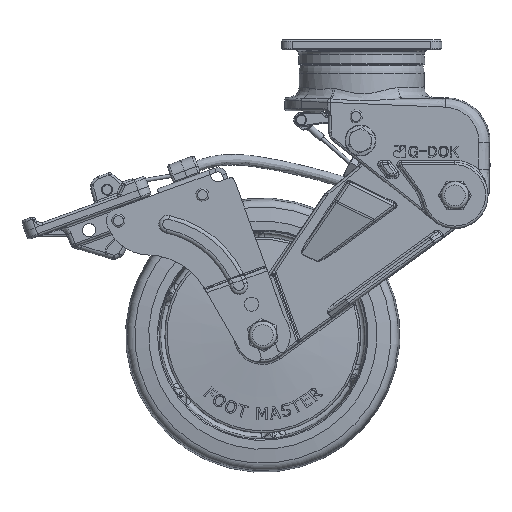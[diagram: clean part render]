
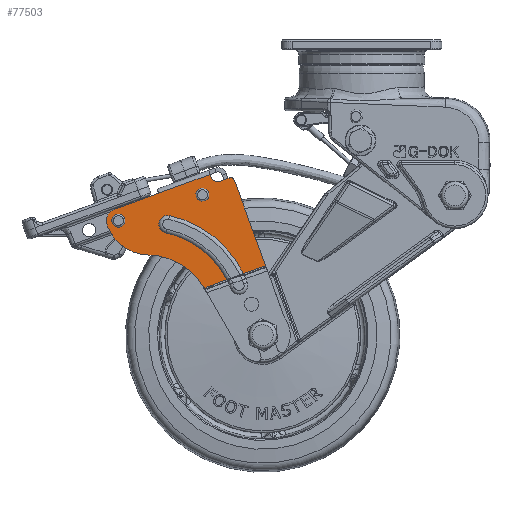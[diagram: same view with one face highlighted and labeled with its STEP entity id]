
A CAD part, front view. The second image highlights one B-rep face of the part: STEP entity #77503.
In plain terms, the highlighted planar face has unit normal (0, -1, 0).
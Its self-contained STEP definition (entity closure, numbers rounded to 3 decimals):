
#4821=FACE_BOUND('',#15474,.T.);
#4822=FACE_BOUND('',#15475,.T.);
#6271=PLANE('',#84704);
#10836=FACE_OUTER_BOUND('',#15473,.T.);
#15473=EDGE_LOOP('',(#66695,#66696,#66697,#66698,#66699,#66700,#66701,#66702,
#66703,#66704,#66705,#66706,#66707,#66708,#66709,#66710,#66711,#66712));
#15474=EDGE_LOOP('',(#66713));
#15475=EDGE_LOOP('',(#66714));
#16538=LINE('',#122573,#21161);
#16543=LINE('',#122587,#21166);
#16547=LINE('',#122599,#21170);
#16571=LINE('',#122682,#21194);
#16591=LINE('',#122737,#21214);
#16595=LINE('',#122744,#21218);
#16607=LINE('',#122823,#21230);
#16608=LINE('',#122834,#21231);
#16721=LINE('',#125278,#21344);
#21161=VECTOR('',#88433,10.);
#21166=VECTOR('',#88446,10.);
#21170=VECTOR('',#88458,10.);
#21194=VECTOR('',#88526,10.);
#21214=VECTOR('',#88576,10.);
#21218=VECTOR('',#88582,10.);
#21230=VECTOR('',#88642,10.);
#21231=VECTOR('',#88651,10.);
#21344=VECTOR('',#89414,10.);
#25564=CIRCLE('',#78989,30.);
#25576=CIRCLE('',#79008,2.);
#25578=CIRCLE('',#79012,3.);
#25580=CIRCLE('',#79016,5.5);
#25582=CIRCLE('',#79020,20.);
#25678=CIRCLE('',#79182,49.);
#25683=CIRCLE('',#79188,41.);
#25685=CIRCLE('',#79191,4.);
#25805=CIRCLE('',#79416,49.);
#28130=CIRCLE('',#84698,2.25);
#28133=CIRCLE('',#84705,2.25);
#29586=VERTEX_POINT('',#122507);
#29587=VERTEX_POINT('',#122509);
#29608=VERTEX_POINT('',#122563);
#29609=VERTEX_POINT('',#122565);
#29611=VERTEX_POINT('',#122571);
#29613=VERTEX_POINT('',#122577);
#29614=VERTEX_POINT('',#122581);
#29616=VERTEX_POINT('',#122585);
#29618=VERTEX_POINT('',#122591);
#29620=VERTEX_POINT('',#122597);
#29651=VERTEX_POINT('',#122678);
#29671=VERTEX_POINT('',#122735);
#29672=VERTEX_POINT('',#122740);
#29698=VERTEX_POINT('',#122821);
#29699=VERTEX_POINT('',#122826);
#29762=VERTEX_POINT('',#123878);
#29763=VERTEX_POINT('',#123880);
#29766=VERTEX_POINT('',#123888);
#34659=VERTEX_POINT('',#170293);
#34661=VERTEX_POINT('',#170303);
#37023=EDGE_CURVE('',#29587,#29586,#25564,.T.);
#37050=EDGE_CURVE('',#29609,#29608,#25576,.T.);
#37054=EDGE_CURVE('',#29608,#29611,#16538,.T.);
#37057=EDGE_CURVE('',#29611,#29613,#25578,.T.);
#37061=EDGE_CURVE('',#29614,#29616,#16543,.T.);
#37064=EDGE_CURVE('',#29616,#29618,#25580,.T.);
#37067=EDGE_CURVE('',#29618,#29620,#16547,.T.);
#37069=EDGE_CURVE('',#29620,#29587,#25582,.T.);
#37106=EDGE_CURVE('',#29614,#29651,#16571,.T.);
#37134=EDGE_CURVE('',#29586,#29671,#16591,.T.);
#37138=EDGE_CURVE('',#29672,#29609,#16595,.T.);
#37170=EDGE_CURVE('',#29698,#29671,#16607,.T.);
#37175=EDGE_CURVE('',#29672,#29699,#16608,.T.);
#37289=EDGE_CURVE('',#29763,#29762,#25678,.T.);
#37294=EDGE_CURVE('',#29698,#29766,#25683,.T.);
#37296=EDGE_CURVE('',#29766,#29763,#25685,.T.);
#37568=EDGE_CURVE('',#29613,#29651,#16721,.T.);
#37574=EDGE_CURVE('',#29762,#29699,#25805,.T.);
#45419=EDGE_CURVE('',#34659,#34659,#28130,.T.);
#45422=EDGE_CURVE('',#34661,#34661,#28133,.T.);
#66695=ORIENTED_EDGE('',*,*,#37294,.T.);
#66696=ORIENTED_EDGE('',*,*,#37296,.T.);
#66697=ORIENTED_EDGE('',*,*,#37289,.T.);
#66698=ORIENTED_EDGE('',*,*,#37574,.T.);
#66699=ORIENTED_EDGE('',*,*,#37175,.F.);
#66700=ORIENTED_EDGE('',*,*,#37138,.T.);
#66701=ORIENTED_EDGE('',*,*,#37050,.T.);
#66702=ORIENTED_EDGE('',*,*,#37054,.T.);
#66703=ORIENTED_EDGE('',*,*,#37057,.T.);
#66704=ORIENTED_EDGE('',*,*,#37568,.T.);
#66705=ORIENTED_EDGE('',*,*,#37106,.F.);
#66706=ORIENTED_EDGE('',*,*,#37061,.T.);
#66707=ORIENTED_EDGE('',*,*,#37064,.T.);
#66708=ORIENTED_EDGE('',*,*,#37067,.T.);
#66709=ORIENTED_EDGE('',*,*,#37069,.T.);
#66710=ORIENTED_EDGE('',*,*,#37023,.T.);
#66711=ORIENTED_EDGE('',*,*,#37134,.T.);
#66712=ORIENTED_EDGE('',*,*,#37170,.F.);
#66713=ORIENTED_EDGE('',*,*,#45419,.F.);
#66714=ORIENTED_EDGE('',*,*,#45422,.F.);
#77503=ADVANCED_FACE('',(#10836,#4821,#4822),#6271,.F.);
#78989=AXIS2_PLACEMENT_3D('',#122510,#88373,#88374);
#79008=AXIS2_PLACEMENT_3D('',#122566,#88426,#88427);
#79012=AXIS2_PLACEMENT_3D('',#122579,#88439,#88440);
#79016=AXIS2_PLACEMENT_3D('',#122593,#88452,#88453);
#79020=AXIS2_PLACEMENT_3D('',#122602,#88463,#88464);
#79182=AXIS2_PLACEMENT_3D('',#123881,#88859,#88860);
#79188=AXIS2_PLACEMENT_3D('',#123890,#88871,#88872);
#79191=AXIS2_PLACEMENT_3D('',#123893,#88877,#88878);
#79416=AXIS2_PLACEMENT_3D('',#125389,#89431,#89432);
#84698=AXIS2_PLACEMENT_3D('',#170295,#103413,#103414);
#84704=AXIS2_PLACEMENT_3D('',#170302,#103425,#103426);
#84705=AXIS2_PLACEMENT_3D('',#170304,#103427,#103428);
#88373=DIRECTION('center_axis',(0.,1.,0.));
#88374=DIRECTION('ref_axis',(-0.866,0.,-0.5));
#88426=DIRECTION('center_axis',(0.,-1.,0.));
#88427=DIRECTION('ref_axis',(0.94,0.,0.342));
#88433=DIRECTION('',(-0.94,0.,-0.342));
#88439=DIRECTION('center_axis',(0.,1.,0.));
#88440=DIRECTION('ref_axis',(0.94,0.,0.342));
#88446=DIRECTION('',(-0.94,0.,-0.342));
#88452=DIRECTION('center_axis',(0.,-1.,0.));
#88453=DIRECTION('ref_axis',(-0.342,0.,0.94));
#88458=DIRECTION('',(0.342,0.,-0.94));
#88463=DIRECTION('center_axis',(0.,-1.,0.));
#88464=DIRECTION('ref_axis',(-0.94,0.,-0.342));
#88526=DIRECTION('',(0.94,0.,0.342));
#88576=DIRECTION('',(0.5,0.,-0.866));
#88582=DIRECTION('',(-0.342,0.,0.94));
#88642=DIRECTION('',(-0.94,0.,-0.342));
#88651=DIRECTION('',(-0.94,0.,-0.342));
#88859=DIRECTION('center_axis',(0.,1.,0.));
#88860=DIRECTION('ref_axis',(0.934,0.,0.356));
#88871=DIRECTION('center_axis',(0.,-1.,0.));
#88872=DIRECTION('ref_axis',(-0.934,0.,-0.356));
#88877=DIRECTION('center_axis',(0.,1.,0.));
#88878=DIRECTION('ref_axis',(0.211,0.,0.977));
#89414=DIRECTION('',(-0.342,0.,0.94));
#89431=DIRECTION('center_axis',(0.,1.,0.));
#89432=DIRECTION('ref_axis',(0.934,0.,0.356));
#103413=DIRECTION('center_axis',(0.,-1.,0.));
#103414=DIRECTION('ref_axis',(0.,0.,-1.));
#103425=DIRECTION('center_axis',(0.,1.,0.));
#103426=DIRECTION('ref_axis',(0.94,0.,0.342));
#103427=DIRECTION('center_axis',(0.,-1.,0.));
#103428=DIRECTION('ref_axis',(0.,0.,-1.));
#122507=CARTESIAN_POINT('',(-71.876,-25.8,-112.905));
#122509=CARTESIAN_POINT('',(-97.327,-25.8,-97.91));
#122510=CARTESIAN_POINT('Origin',(-97.857,-25.8,-127.905));
#122563=CARTESIAN_POINT('',(-60.399,-25.8,-62.908));
#122565=CARTESIAN_POINT('',(-57.836,-25.8,-64.104));
#122566=CARTESIAN_POINT('Origin',(-59.715,-25.8,-64.788));
#122571=CARTESIAN_POINT('',(-64.628,-25.8,-64.447));
#122573=CARTESIAN_POINT('',(-60.399,-25.8,-62.908));
#122577=CARTESIAN_POINT('',(-68.473,-25.8,-62.654));
#122579=CARTESIAN_POINT('Origin',(-65.654,-25.8,-61.628));
#122581=CARTESIAN_POINT('',(-92.479,-25.8,-69.795));
#122585=CARTESIAN_POINT('',(-112.682,-25.8,-77.149));
#122587=CARTESIAN_POINT('',(-68.986,-25.8,-61.245));
#122591=CARTESIAN_POINT('',(-115.969,-25.8,-84.198));
#122593=CARTESIAN_POINT('Origin',(-110.801,-25.8,-82.317));
#122597=CARTESIAN_POINT('',(-115.767,-25.8,-84.754));
#122599=CARTESIAN_POINT('',(-115.969,-25.8,-84.198));
#122602=CARTESIAN_POINT('Origin',(-96.973,-25.8,-77.913));
#122678=CARTESIAN_POINT('',(-68.986,-25.8,-61.245));
#122682=CARTESIAN_POINT('',(-83.082,-25.8,-66.375));
#122735=CARTESIAN_POINT('',(-71.814,-25.8,-113.012));
#122737=CARTESIAN_POINT('',(-71.876,-25.8,-112.905));
#122740=CARTESIAN_POINT('',(-43.752,-25.8,-102.799));
#122744=CARTESIAN_POINT('',(-35.337,-25.8,-125.919));
#122821=CARTESIAN_POINT('',(-61.367,-25.8,-109.21));
#122823=CARTESIAN_POINT('',(-58.083,-25.8,-108.015));
#122826=CARTESIAN_POINT('',(-53.801,-25.8,-106.456));
#122834=CARTESIAN_POINT('',(-58.083,-25.8,-108.015));
#123878=CARTESIAN_POINT('',(-53.883,-25.8,-106.288));
#123880=CARTESIAN_POINT('',(-87.506,-25.8,-80.011));
#123881=CARTESIAN_POINT('Origin',(-97.857,-25.8,-127.905));
#123888=CARTESIAN_POINT('',(-89.196,-25.8,-87.831));
#123890=CARTESIAN_POINT('Origin',(-97.857,-25.8,-127.905));
#123893=CARTESIAN_POINT('Origin',(-88.351,-25.8,-83.921));
#125278=CARTESIAN_POINT('',(-68.473,-25.8,-62.654));
#125389=CARTESIAN_POINT('Origin',(-97.857,-25.8,-127.905));
#170293=CARTESIAN_POINT('',(-71.755,-25.8,-72.642));
#170295=CARTESIAN_POINT('Origin',(-72.525,-25.8,-70.528));
#170302=CARTESIAN_POINT('Origin',(-86.254,-25.8,-40.117));
#170303=CARTESIAN_POINT('',(-110.031,-25.8,-84.431));
#170304=CARTESIAN_POINT('Origin',(-110.801,-25.8,-82.317));
